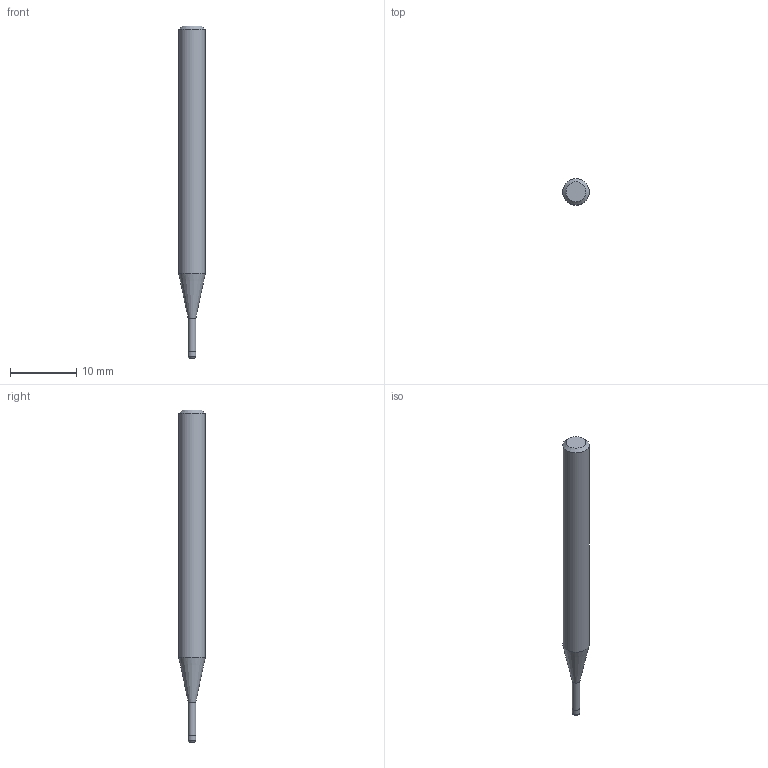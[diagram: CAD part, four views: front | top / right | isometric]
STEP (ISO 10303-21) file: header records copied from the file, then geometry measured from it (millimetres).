
FILE_DESCRIPTION((''),'2;1');
FILE_NAME('C:\Users\nsx150\AppData\Local\Temp\Mastercam 2021\17T8Q8S9EB\TEMP.step','2021-04-21T14:34:57',(''),(''),'STEP Write','Mastercam 2021 ... CNC Software, Inc.','');
FILE_SCHEMA(('AUTOMOTIVE_DESIGN'));
Length unit declared in the file: millimetre
Products named in the file (1): None
Bounding box: 4 x 4 x 50 mm (x, y, z)
Volume: 511.6 mm3; surface area: 557.1 mm2
Topology: 2 solids, 2 shells, 10 faces, 14 edges, 8 vertices
Faces by surface type: plane 4, cylinder 3, cone 2, torus 1
Full cylindrical faces by diameter (mm): 1.14 x1, 1.2 x1, 4 x1
Entity records: 232 total; most frequent: DIRECTION 40, CARTESIAN_POINT 28, AXIS2_PLACEMENT_3D 20, ORIENTED_EDGE 16, EDGE_LOOP 16, STYLED_ITEM 13, ADVANCED_FACE 10, FACE_BOUND 10
